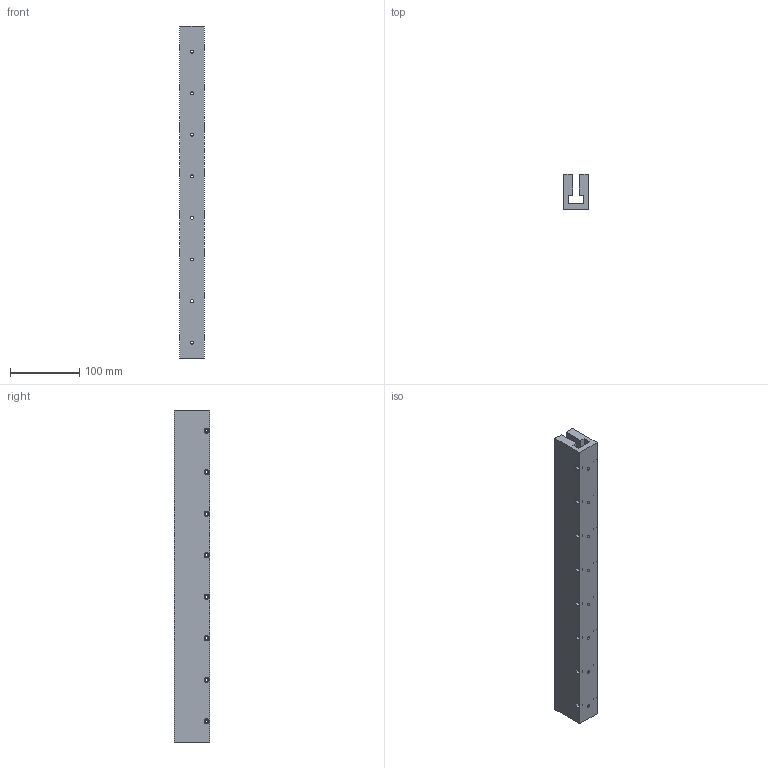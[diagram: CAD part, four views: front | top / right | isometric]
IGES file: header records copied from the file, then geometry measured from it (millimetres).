
Start section: SolidWorks IGES file using analytic representation for surfaces
Bounding box: 35.7 x 50.8 x 479.5 mm (x, y, z)
Surface area: 144678.3 mm2 (no closed solid volume)
Topology: 0 solids, 0 shells, 98 faces, 2400 edges, 2400 vertices
Faces by surface type: revolution 64, bspline 34
